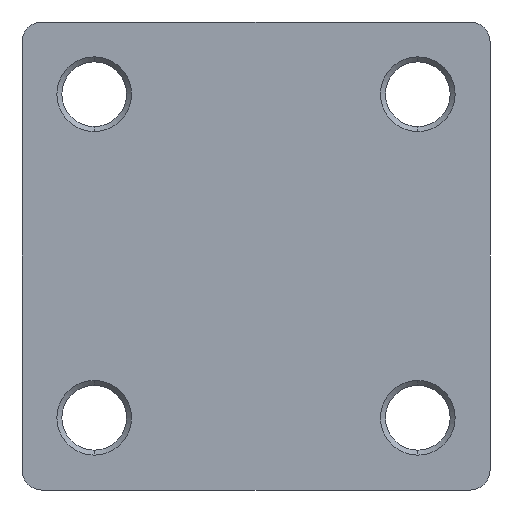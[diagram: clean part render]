
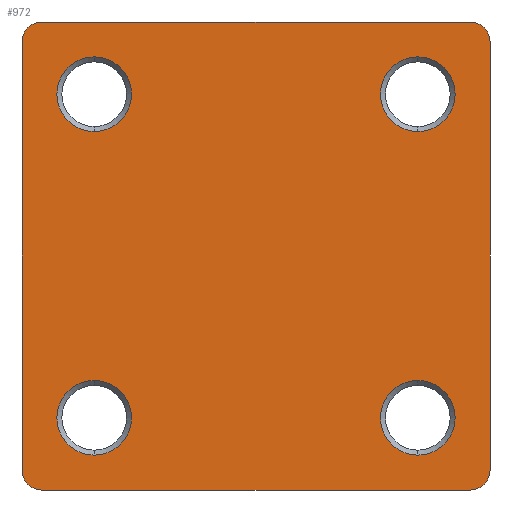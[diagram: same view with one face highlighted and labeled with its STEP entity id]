
A CAD part, left-side view. The second image highlights one B-rep face of the part: STEP entity #972.
In plain terms, the highlighted planar face has unit normal (-1, 0, 0).
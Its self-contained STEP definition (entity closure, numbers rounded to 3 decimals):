
#2 = ORIENTED_EDGE ( 'NONE', *, *, #66, .F. ) ;
#9 = ORIENTED_EDGE ( 'NONE', *, *, #1075, .F. ) ;
#21 = EDGE_CURVE ( 'NONE', #466, #504, #1690, .T. ) ;
#22 = ORIENTED_EDGE ( 'NONE', *, *, #235, .F. ) ;
#30 = ORIENTED_EDGE ( 'NONE', *, *, #371, .F. ) ;
#52 = DIRECTION ( 'NONE',  ( 0., 0., 1. ) ) ;
#66 = EDGE_CURVE ( 'NONE', #1299, #825, #875, .T. ) ;
#73 = EDGE_CURVE ( 'NONE', #637, #1633, #981, .T. ) ;
#80 = VERTEX_POINT ( 'NONE', #614 ) ;
#102 = CARTESIAN_POINT ( 'NONE',  ( -9., 16.25, 16.25 ) ) ;
#105 = CARTESIAN_POINT ( 'NONE',  ( -9., -23.5, -21.5 ) ) ;
#107 = EDGE_CURVE ( 'NONE', #1633, #637, #1674, .T. ) ;
#142 = AXIS2_PLACEMENT_3D ( 'NONE', #157, #865, #1030 ) ;
#144 = CIRCLE ( 'NONE', #1148, 3.75 ) ;
#148 = VERTEX_POINT ( 'NONE', #746 ) ;
#154 = EDGE_LOOP ( 'NONE', ( #1819, #480 ) ) ;
#157 = CARTESIAN_POINT ( 'NONE',  ( -9., -16.25, -16.25 ) ) ;
#165 = CARTESIAN_POINT ( 'NONE',  ( -9., -23.5, 21.5 ) ) ;
#174 = AXIS2_PLACEMENT_3D ( 'NONE', #909, #652, #955 ) ;
#209 = DIRECTION ( 'NONE',  ( -1., 0., 0. ) ) ;
#228 = DIRECTION ( 'NONE',  ( 1., 0., 0. ) ) ;
#235 = EDGE_CURVE ( 'NONE', #904, #1260, #670, .T. ) ;
#247 = EDGE_CURVE ( 'NONE', #666, #1318, #622, .T. ) ;
#254 = EDGE_CURVE ( 'NONE', #878, #80, #1377, .T. ) ;
#259 = CARTESIAN_POINT ( 'NONE',  ( -9., -21.5, 21.5 ) ) ;
#281 = AXIS2_PLACEMENT_3D ( 'NONE', #1792, #209, #52 ) ;
#283 = CARTESIAN_POINT ( 'NONE',  ( -9., 23.5, -21.5 ) ) ;
#288 = AXIS2_PLACEMENT_3D ( 'NONE', #1362, #1624, #1071 ) ;
#298 = CARTESIAN_POINT ( 'NONE',  ( -9., 21.5, 23.5 ) ) ;
#303 = FACE_OUTER_BOUND ( 'NONE', #1803, .T. ) ;
#304 = AXIS2_PLACEMENT_3D ( 'NONE', #1786, #1083, #355 ) ;
#332 = EDGE_CURVE ( 'NONE', #148, #1195, #1325, .T. ) ;
#336 = ORIENTED_EDGE ( 'NONE', *, *, #1149, .F. ) ;
#355 = DIRECTION ( 'NONE',  ( 0., 0., -1. ) ) ;
#359 = DIRECTION ( 'NONE',  ( 1., 0., 0. ) ) ;
#371 = EDGE_CURVE ( 'NONE', #825, #466, #1721, .T. ) ;
#392 = DIRECTION ( 'NONE',  ( -1., 0., 0. ) ) ;
#405 = CARTESIAN_POINT ( 'NONE',  ( -9., 16.25, -20. ) ) ;
#418 = CARTESIAN_POINT ( 'NONE',  ( -9., 16.25, -12.5 ) ) ;
#438 = AXIS2_PLACEMENT_3D ( 'NONE', #259, #681, #973 ) ;
#465 = ORIENTED_EDGE ( 'NONE', *, *, #1673, .F. ) ;
#466 = VERTEX_POINT ( 'NONE', #1496 ) ;
#470 = DIRECTION ( 'NONE',  ( -1., 0., 0. ) ) ;
#480 = ORIENTED_EDGE ( 'NONE', *, *, #660, .F. ) ;
#504 = VERTEX_POINT ( 'NONE', #1226 ) ;
#576 = ORIENTED_EDGE ( 'NONE', *, *, #21, .F. ) ;
#601 = CARTESIAN_POINT ( 'NONE',  ( -9., 16.25, 12.5 ) ) ;
#614 = CARTESIAN_POINT ( 'NONE',  ( -9., -16.25, 12.5 ) ) ;
#622 = CIRCLE ( 'NONE', #174, 3.75 ) ;
#630 = CARTESIAN_POINT ( 'NONE',  ( -9., -21.5, 23.5 ) ) ;
#637 = VERTEX_POINT ( 'NONE', #405 ) ;
#652 = DIRECTION ( 'NONE',  ( -1., 0., 0. ) ) ;
#660 = EDGE_CURVE ( 'NONE', #80, #878, #144, .T. ) ;
#666 = VERTEX_POINT ( 'NONE', #1395 ) ;
#670 = CIRCLE ( 'NONE', #867, 2. ) ;
#681 = DIRECTION ( 'NONE',  ( 1., 0., 0. ) ) ;
#695 = EDGE_CURVE ( 'NONE', #1649, #1299, #803, .T. ) ;
#698 = EDGE_CURVE ( 'NONE', #1195, #148, #748, .T. ) ;
#700 = DIRECTION ( 'NONE',  ( 0., 0., 1. ) ) ;
#732 = CARTESIAN_POINT ( 'NONE',  ( -9., -21.5, -23.5 ) ) ;
#746 = CARTESIAN_POINT ( 'NONE',  ( -9., 16.25, 20. ) ) ;
#748 = CIRCLE ( 'NONE', #1540, 3.75 ) ;
#751 = LINE ( 'NONE', #939, #1795 ) ;
#772 = CARTESIAN_POINT ( 'NONE',  ( -9., 16.25, 16.25 ) ) ;
#777 = ORIENTED_EDGE ( 'NONE', *, *, #332, .F. ) ;
#787 = CARTESIAN_POINT ( 'NONE',  ( -9., -16.25, 20. ) ) ;
#793 = DIRECTION ( 'NONE',  ( 0., 0., -1. ) ) ;
#803 = CIRCLE ( 'NONE', #438, 2. ) ;
#810 = VECTOR ( 'NONE', #1606, 1000. ) ;
#816 = EDGE_LOOP ( 'NONE', ( #1045, #1262 ) ) ;
#818 = CARTESIAN_POINT ( 'NONE',  ( -9., 21.5, -21.5 ) ) ;
#825 = VERTEX_POINT ( 'NONE', #105 ) ;
#831 = DIRECTION ( 'NONE',  ( -1., 0., 0. ) ) ;
#865 = DIRECTION ( 'NONE',  ( -1., 0., 0. ) ) ;
#867 = AXIS2_PLACEMENT_3D ( 'NONE', #1660, #359, #793 ) ;
#875 = LINE ( 'NONE', #165, #1061 ) ;
#878 = VERTEX_POINT ( 'NONE', #787 ) ;
#904 = VERTEX_POINT ( 'NONE', #1344 ) ;
#909 = CARTESIAN_POINT ( 'NONE',  ( -9., -16.25, -16.25 ) ) ;
#917 = PLANE ( 'NONE',  #304 ) ;
#939 = CARTESIAN_POINT ( 'NONE',  ( -9., 21.5, 23.5 ) ) ;
#944 = FACE_BOUND ( 'NONE', #816, .T. ) ;
#947 = DIRECTION ( 'NONE',  ( 0., 0., 1. ) ) ;
#955 = DIRECTION ( 'NONE',  ( 0., 0., 1. ) ) ;
#962 = EDGE_LOOP ( 'NONE', ( #336, #1461 ) ) ;
#964 = DIRECTION ( 'NONE',  ( 0., 0., -1. ) ) ;
#972 = ADVANCED_FACE ( 'NONE', ( #944, #1375, #1212, #1451, #303 ), #917, .F. ) ;
#973 = DIRECTION ( 'NONE',  ( 0., 0., -1. ) ) ;
#981 = CIRCLE ( 'NONE', #1180, 3.75 ) ;
#1015 = CIRCLE ( 'NONE', #142, 3.75 ) ;
#1030 = DIRECTION ( 'NONE',  ( 0., 0., 1. ) ) ;
#1045 = ORIENTED_EDGE ( 'NONE', *, *, #107, .F. ) ;
#1061 = VECTOR ( 'NONE', #1187, 1000. ) ;
#1071 = DIRECTION ( 'NONE',  ( 0., 0., 1. ) ) ;
#1075 = EDGE_CURVE ( 'NONE', #504, #1415, #1267, .T. ) ;
#1083 = DIRECTION ( 'NONE',  ( 1., 0., 0. ) ) ;
#1115 = DIRECTION ( 'NONE',  ( 1., 0., 0. ) ) ;
#1148 = AXIS2_PLACEMENT_3D ( 'NONE', #1409, #831, #1830 ) ;
#1149 = EDGE_CURVE ( 'NONE', #1318, #666, #1015, .T. ) ;
#1180 = AXIS2_PLACEMENT_3D ( 'NONE', #1343, #470, #1457 ) ;
#1187 = DIRECTION ( 'NONE',  ( 0., 0., -1. ) ) ;
#1195 = VERTEX_POINT ( 'NONE', #601 ) ;
#1212 = FACE_BOUND ( 'NONE', #962, .T. ) ;
#1226 = CARTESIAN_POINT ( 'NONE',  ( -9., 21.5, -23.5 ) ) ;
#1254 = DIRECTION ( 'NONE',  ( 0., 0., -1. ) ) ;
#1260 = VERTEX_POINT ( 'NONE', #298 ) ;
#1262 = ORIENTED_EDGE ( 'NONE', *, *, #73, .F. ) ;
#1267 = CIRCLE ( 'NONE', #1822, 2. ) ;
#1268 = AXIS2_PLACEMENT_3D ( 'NONE', #772, #1369, #947 ) ;
#1299 = VERTEX_POINT ( 'NONE', #1452 ) ;
#1312 = CARTESIAN_POINT ( 'NONE',  ( -9., -16.25, -12.5 ) ) ;
#1318 = VERTEX_POINT ( 'NONE', #1312 ) ;
#1325 = CIRCLE ( 'NONE', #1268, 3.75 ) ;
#1327 = LINE ( 'NONE', #283, #1528 ) ;
#1343 = CARTESIAN_POINT ( 'NONE',  ( -9., 16.25, -16.25 ) ) ;
#1344 = CARTESIAN_POINT ( 'NONE',  ( -9., 23.5, 21.5 ) ) ;
#1362 = CARTESIAN_POINT ( 'NONE',  ( -9., 16.25, -16.25 ) ) ;
#1369 = DIRECTION ( 'NONE',  ( -1., 0., 0. ) ) ;
#1373 = EDGE_LOOP ( 'NONE', ( #777, #1753 ) ) ;
#1375 = FACE_BOUND ( 'NONE', #1373, .T. ) ;
#1377 = CIRCLE ( 'NONE', #281, 3.75 ) ;
#1395 = CARTESIAN_POINT ( 'NONE',  ( -9., -16.25, -20. ) ) ;
#1409 = CARTESIAN_POINT ( 'NONE',  ( -9., -16.25, 16.25 ) ) ;
#1415 = VERTEX_POINT ( 'NONE', #1609 ) ;
#1451 = FACE_BOUND ( 'NONE', #154, .T. ) ;
#1452 = CARTESIAN_POINT ( 'NONE',  ( -9., -23.5, 21.5 ) ) ;
#1457 = DIRECTION ( 'NONE',  ( 0., 0., 1. ) ) ;
#1461 = ORIENTED_EDGE ( 'NONE', *, *, #247, .F. ) ;
#1496 = CARTESIAN_POINT ( 'NONE',  ( -9., -21.5, -23.5 ) ) ;
#1528 = VECTOR ( 'NONE', #700, 1000. ) ;
#1540 = AXIS2_PLACEMENT_3D ( 'NONE', #102, #392, #1550 ) ;
#1550 = DIRECTION ( 'NONE',  ( 0., 0., 1. ) ) ;
#1562 = ORIENTED_EDGE ( 'NONE', *, *, #1856, .F. ) ;
#1606 = DIRECTION ( 'NONE',  ( 0., 1., 0. ) ) ;
#1609 = CARTESIAN_POINT ( 'NONE',  ( -9., 23.5, -21.5 ) ) ;
#1624 = DIRECTION ( 'NONE',  ( -1., 0., 0. ) ) ;
#1633 = VERTEX_POINT ( 'NONE', #418 ) ;
#1649 = VERTEX_POINT ( 'NONE', #630 ) ;
#1656 = DIRECTION ( 'NONE',  ( 0., -1., 0. ) ) ;
#1660 = CARTESIAN_POINT ( 'NONE',  ( -9., 21.5, 21.5 ) ) ;
#1673 = EDGE_CURVE ( 'NONE', #1260, #1649, #751, .T. ) ;
#1674 = CIRCLE ( 'NONE', #288, 3.75 ) ;
#1675 = CARTESIAN_POINT ( 'NONE',  ( -9., -21.5, -21.5 ) ) ;
#1690 = LINE ( 'NONE', #732, #810 ) ;
#1721 = CIRCLE ( 'NONE', #1751, 2. ) ;
#1751 = AXIS2_PLACEMENT_3D ( 'NONE', #1675, #1115, #964 ) ;
#1753 = ORIENTED_EDGE ( 'NONE', *, *, #698, .F. ) ;
#1776 = ORIENTED_EDGE ( 'NONE', *, *, #695, .F. ) ;
#1786 = CARTESIAN_POINT ( 'NONE',  ( -9., -21.5, 21.5 ) ) ;
#1792 = CARTESIAN_POINT ( 'NONE',  ( -9., -16.25, 16.25 ) ) ;
#1795 = VECTOR ( 'NONE', #1656, 1000. ) ;
#1803 = EDGE_LOOP ( 'NONE', ( #1776, #465, #22, #1562, #9, #576, #30, #2 ) ) ;
#1819 = ORIENTED_EDGE ( 'NONE', *, *, #254, .F. ) ;
#1822 = AXIS2_PLACEMENT_3D ( 'NONE', #818, #228, #1254 ) ;
#1830 = DIRECTION ( 'NONE',  ( 0., 0., 1. ) ) ;
#1856 = EDGE_CURVE ( 'NONE', #1415, #904, #1327, .T. ) ;
